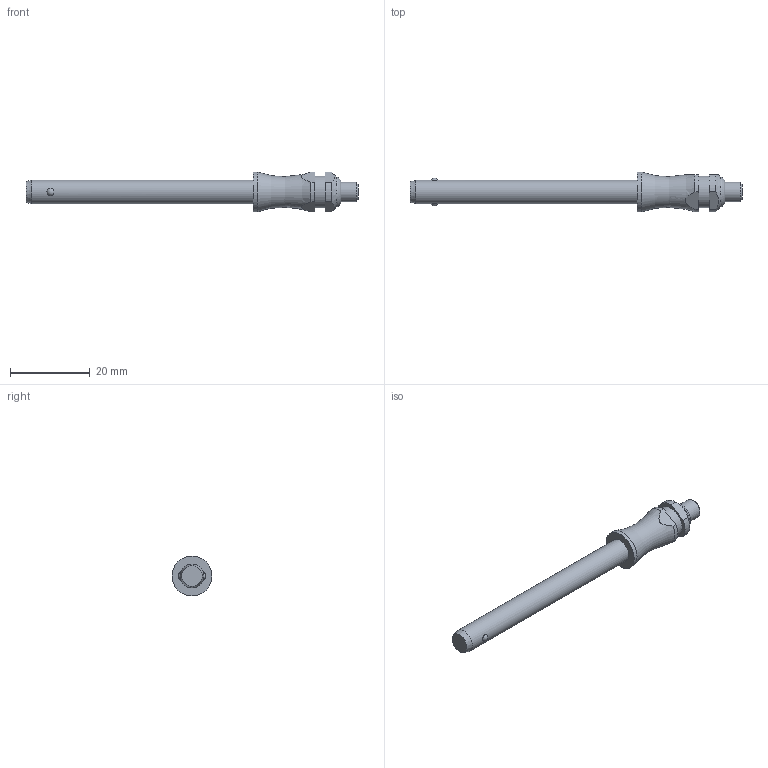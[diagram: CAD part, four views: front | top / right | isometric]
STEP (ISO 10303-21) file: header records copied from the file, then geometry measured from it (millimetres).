
FILE_DESCRIPTION( ( 'STEP AP203' ), '1' );
FILE_NAME( 'C:/Temp/Ganter_Step_05_03_2020/data/3_1/gn113_3/Stainless Steel-Ball lock pin GN 113.3-6-50 (deactivated).stp', '2020-03-12T08:18:19', ( 'License CC BY-ND 4.0' ), ( 'CADENAS' ), ' ', 'PARTsolutions', ' ' );
FILE_SCHEMA( ( 'CONFIG_CONTROL_DESIGN' ) );
Length unit declared in the file: millimetre
Products named in the file (1): _Stainless Steel-Ball lock pin GN 113.3-6-50 (deactivated)
Bounding box: 83.3 x 10 x 10 mm (x, y, z)
Volume: 2948.4 mm3; surface area: 1894.3 mm2
Topology: 1 solids, 1 shells, 29 faces, 61 edges, 40 vertices
Faces by surface type: plane 12, cylinder 10, cone 3, torus 2, sphere 2
Full cylindrical faces by diameter (mm): 5 x1, 6 x1, 7.9 x1, 10 x1
Entity records: 918 total; most frequent: CARTESIAN_POINT 288, DIRECTION 126, ORIENTED_EDGE 100, AXIS2_PLACEMENT_3D 54, EDGE_CURVE 50, EDGE_LOOP 44, VERTEX_POINT 38, FACE_OUTER_BOUND 35
